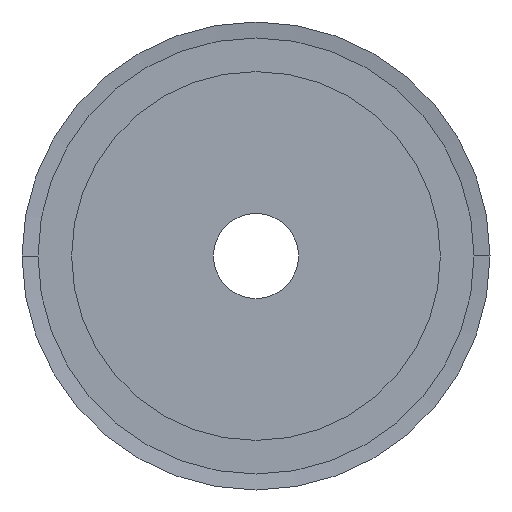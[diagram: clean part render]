
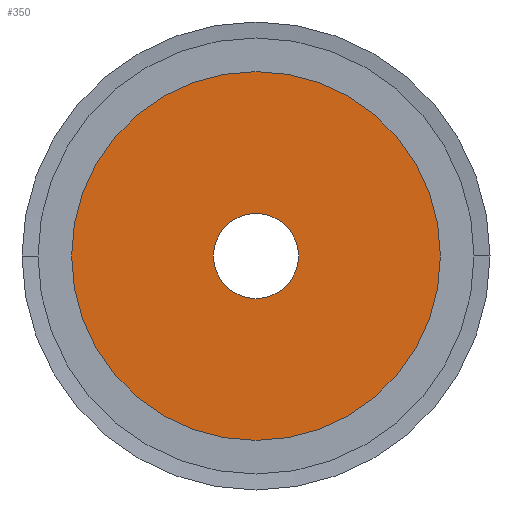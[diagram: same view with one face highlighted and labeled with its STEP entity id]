
A CAD part, left-side view. The second image highlights one B-rep face of the part: STEP entity #350.
In plain terms, the highlighted planar face has unit normal (-1, 0, 0).
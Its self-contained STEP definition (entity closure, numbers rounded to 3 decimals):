
#350 = ADVANCED_FACE( '', ( #906, #907 ), #908, .T. );
#906 = FACE_BOUND( '', #1463, .T. );
#907 = FACE_OUTER_BOUND( '', #1464, .T. );
#908 = PLANE( '', #1465 );
#1463 = EDGE_LOOP( '', ( #3697, #3698 ) );
#1464 = EDGE_LOOP( '', ( #3699, #3700 ) );
#1465 = AXIS2_PLACEMENT_3D( '', #3701, #3702, #3703 );
#3697 = ORIENTED_EDGE( '', *, *, #3797, .T. );
#3698 = ORIENTED_EDGE( '', *, *, #3793, .T. );
#3699 = ORIENTED_EDGE( '', *, *, #3707, .T. );
#3700 = ORIENTED_EDGE( '', *, *, #4408, .T. );
#3701 = CARTESIAN_POINT( '', ( 0., 13., 0. ) );
#3702 = DIRECTION( '', ( -1., 0., 0. ) );
#3703 = DIRECTION( '', ( 0., 1., 0. ) );
#3707 = EDGE_CURVE( '', #4410, #4414, #4416, .T. );
#3793 = EDGE_CURVE( '', #4582, #4579, #4583, .T. );
#3797 = EDGE_CURVE( '', #4579, #4582, #4588, .T. );
#4408 = EDGE_CURVE( '', #4414, #4410, #5547, .T. );
#4410 = VERTEX_POINT( '', #5549 );
#4414 = VERTEX_POINT( '', #5554 );
#4416 = CIRCLE( '', #5557, 26. );
#4579 = VERTEX_POINT( '', #5738 );
#4582 = VERTEX_POINT( '', #5742 );
#4583 = CIRCLE( '', #5743, 6. );
#4588 = CIRCLE( '', #5749, 6. );
#5547 = CIRCLE( '', #6957, 26. );
#5549 = CARTESIAN_POINT( '', ( 0., 26., 0. ) );
#5554 = CARTESIAN_POINT( '', ( 0., -26., 0. ) );
#5557 = AXIS2_PLACEMENT_3D( '', #6963, #6964, #6965 );
#5738 = CARTESIAN_POINT( '', ( 0., 6., 0. ) );
#5742 = CARTESIAN_POINT( '', ( 0., -6., 0. ) );
#5743 = AXIS2_PLACEMENT_3D( '', #7183, #7184, #7185 );
#5749 = AXIS2_PLACEMENT_3D( '', #7193, #7194, #7195 );
#6957 = AXIS2_PLACEMENT_3D( '', #8528, #8529, #8530 );
#6963 = CARTESIAN_POINT( '', ( 0., 0., 0. ) );
#6964 = DIRECTION( '', ( -1., 0., 0. ) );
#6965 = DIRECTION( '', ( 0., 1., 0. ) );
#7183 = CARTESIAN_POINT( '', ( 0., 0., 0. ) );
#7184 = DIRECTION( '', ( 1., 0., 0. ) );
#7185 = DIRECTION( '', ( 0., 1., 0. ) );
#7193 = CARTESIAN_POINT( '', ( 0., 0., 0. ) );
#7194 = DIRECTION( '', ( 1., 0., 0. ) );
#7195 = DIRECTION( '', ( 0., 1., 0. ) );
#8528 = CARTESIAN_POINT( '', ( 0., 0., 0. ) );
#8529 = DIRECTION( '', ( -1., 0., 0. ) );
#8530 = DIRECTION( '', ( 0., 1., 0. ) );
